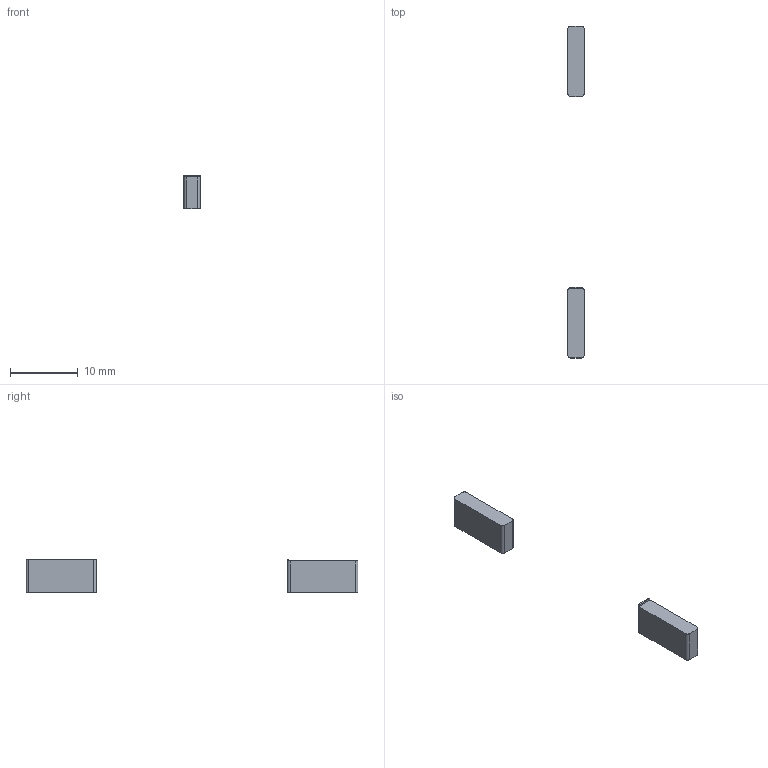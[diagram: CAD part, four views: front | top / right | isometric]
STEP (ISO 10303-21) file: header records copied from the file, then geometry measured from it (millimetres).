
FILE_DESCRIPTION(('Open CASCADE Model'),'2;1');
FILE_NAME('Open CASCADE Shape Model','2026-10-12T13:45:04',('Author'),( 'Open CASCADE'),'Open CASCADE STEP processor 7.9','Open CASCADE 7.9' ,'Unknown');
FILE_SCHEMA(('AUTOMOTIVE_DESIGN { 1 0 10303 214 1 1 1 1 }'));
Length unit declared in the file: millimetre
Products named in the file (3): Open CASCADE STEP translator 7.9 2; Open CASCADE STEP translator 7.9 2.1; Open CASCADE STEP translator 7.9 2.2
Assembly tree (2 placements, depth 2):
  Open CASCADE STEP translator 7.9 2
    Open CASCADE STEP translator 7.9 2.1
    Open CASCADE STEP translator 7.9 2.2
Bounding box: 2.4 x 49 x 4.95 mm (x, y, z)
Volume: 239.6 mm3; surface area: 340.9 mm2
Topology: 2 solids, 2 shells, 22 faces, 54 edges, 36 vertices
Faces by surface type: plane 14, cylinder 8
Entity records: 1399 total; most frequent: CARTESIAN_POINT 253, DIRECTION 215, LINE 114, VECTOR 114, ORIENTED_EDGE 108, PCURVE 108, DEFINITIONAL_REPRESENTATION 108, EDGE_CURVE 54
